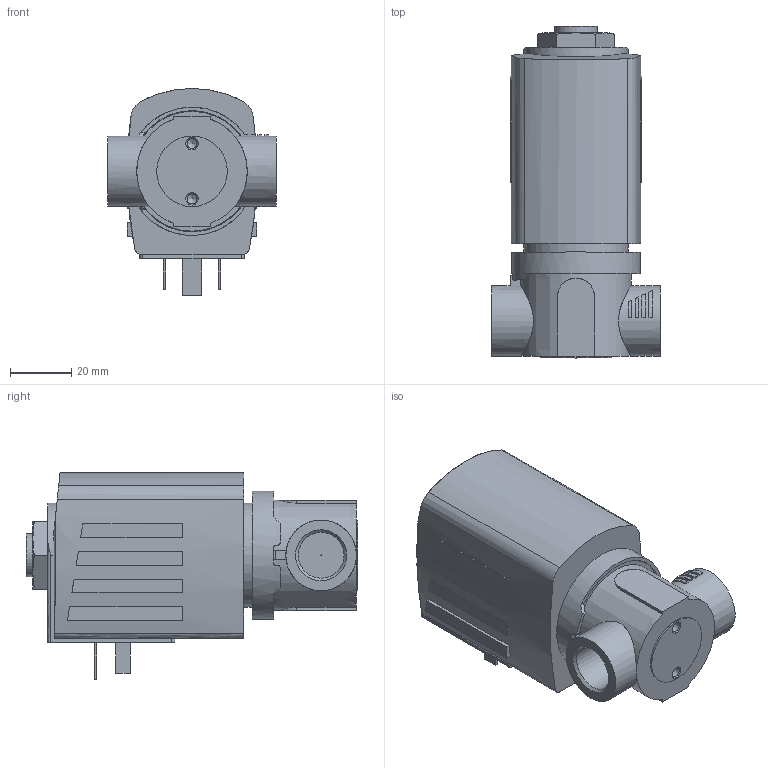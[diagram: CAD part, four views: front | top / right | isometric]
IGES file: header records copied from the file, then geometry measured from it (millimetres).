
Start section: Data from Parasolid IGES Translator 26.0.171, Copyright(c) 2006 Siemens PLM Software. All Rights Reserved.
Global section: file name: 6027-B-8-EPDM___EPDM-MS-G_3_8-42-230___50.igs; native system: By Siemens PLM Incorporated; preprocessor: XPlus GENERIC/IGES 26.0.171; author: Noname; organization: Noname; date: 20240327.220759; units: millimetre
Bounding box: 55 x 108.2 x 67.5 mm (x, y, z)
Surface area: 28074.7 mm2 (no closed solid volume)
Topology: 0 solids, 0 shells, 173 faces, 854 edges, 838 vertices
Faces by surface type: extrusion 118, revolution 55
